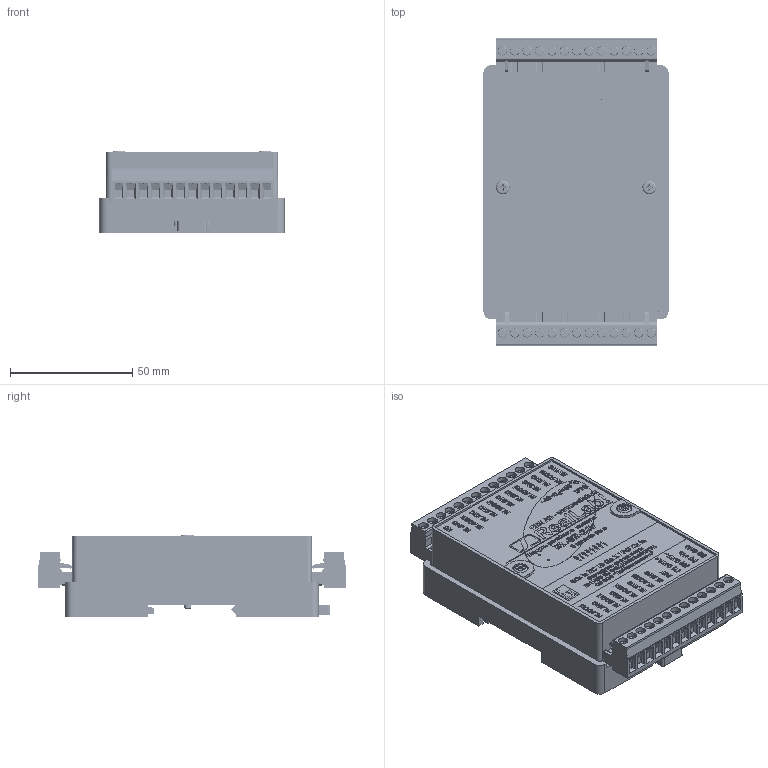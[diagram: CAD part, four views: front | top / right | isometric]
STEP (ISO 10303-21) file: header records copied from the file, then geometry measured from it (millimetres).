
FILE_DESCRIPTION(('STEP AP214'), '1');
FILE_NAME('NL-8R-24V', '', ('UNSPECIFIED'), ('UNSPECIFIED'), 'C3D Converter', 'C3D Toolkit', '');
FILE_SCHEMA(('AUTOMOTIVE_DESIGN { 1 0 10303 214 3 1 1}'));
Length unit declared in the file: millimetre
Bounding box: 75.8 x 126.21 x 33.5 mm (x, y, z)
Volume: 85319.7 mm3; surface area: 90036.3 mm2
Topology: 8 solids, 8 shells, 7974 faces, 22303 edges, 14949 vertices
Faces by surface type: plane 3931, extrusion 3352, cylinder 504, torus 118, cone 68, bspline 1
Full cylindrical faces by diameter (mm): 1 x2, 1.4 x26, 2.5 x4, 3 x30, 3.38 x2, 3.6 x4, 3.95 x26, 4 x2, 5.6 x2, 6.3 x2, 6.4 x2, 8 x2
Entity records: 387635 total; most frequent: CARTESIAN_POINT 131120, ORIENTED_EDGE 44232, DIRECTION 29418, EDGE_CURVE 22116, VECTOR 16342, VERTEX_POINT 14947, LINE 12990, B_SPLINE_CURVE_WITH_KNOTS 10529
